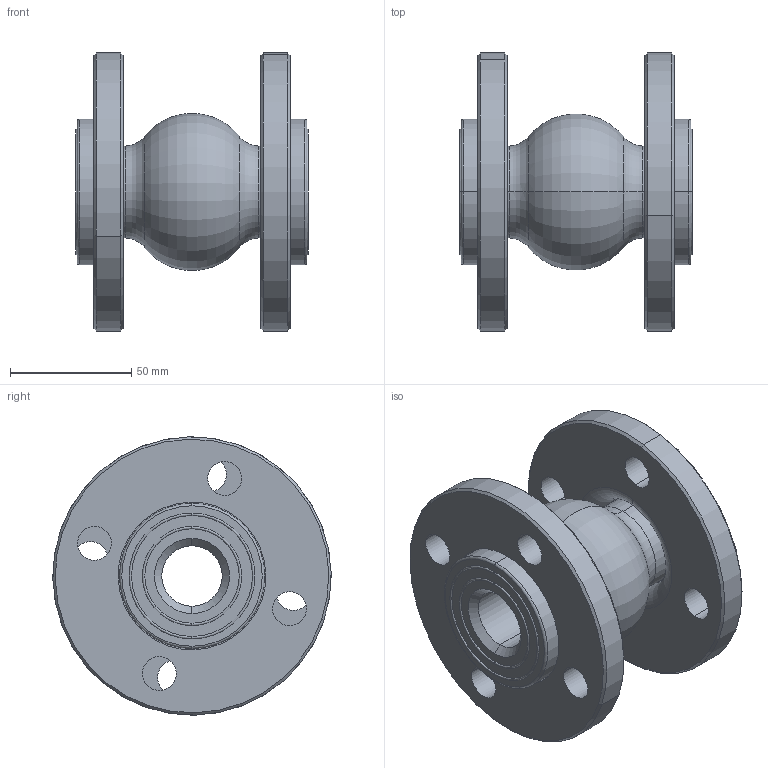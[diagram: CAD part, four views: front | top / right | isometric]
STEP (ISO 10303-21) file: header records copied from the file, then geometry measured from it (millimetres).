
FILE_DESCRIPTION (( 'STEP AP203' ), '1' );
FILE_NAME ('DN25 PN16.STEP', '2026-07-24T08:04:49', ( 'Windows 蚚誧' ), ( '' ), 'SwSTEP 2.0', 'SolidWorks 2018', '' );
FILE_SCHEMA (( 'CONFIG_CONTROL_DESIGN' ));
Length unit declared in the file: millimetre
Products named in the file (3): DN25; DN25 PN16; DN25等⑩邧楊擘
Assembly tree (3 placements, depth 2):
  DN25 PN16
    DN25
    DN25等⑩邧楊擘  x2
Bounding box: 96 x 115 x 115 mm (x, y, z)
Volume: 312034.8 mm3; surface area: 86906.1 mm2
Topology: 3 solids, 3 shells, 124 faces, 264 edges, 156 vertices
Faces by surface type: cylinder 44, torus 44, cone 20, plane 16
Entity records: 2895 total; most frequent: DIRECTION 550, CARTESIAN_POINT 410, ORIENTED_EDGE 392, AXIS2_PLACEMENT_3D 254, EDGE_CURVE 196, CIRCLE 154, EDGE_LOOP 114, VERTEX_POINT 114
